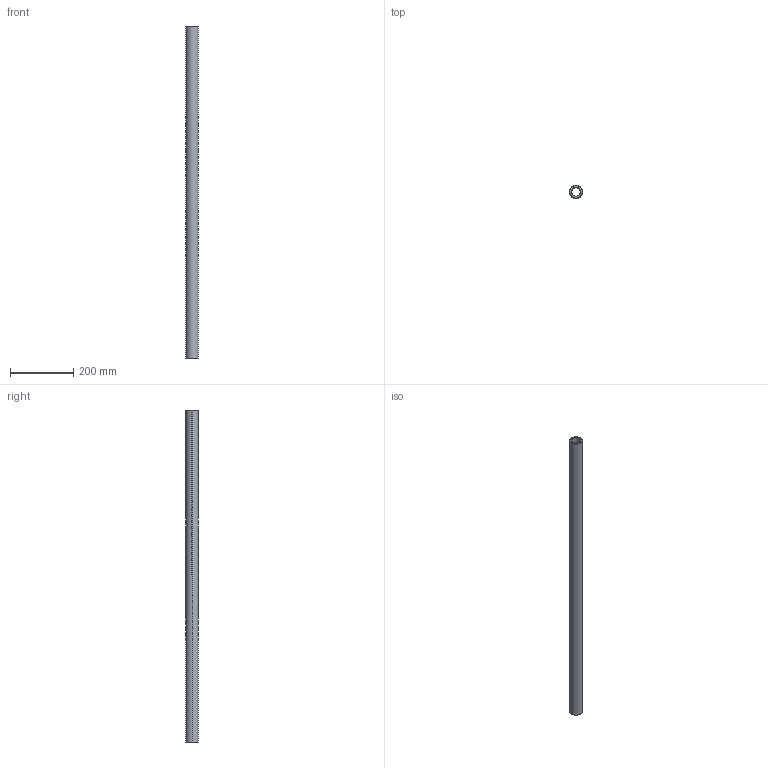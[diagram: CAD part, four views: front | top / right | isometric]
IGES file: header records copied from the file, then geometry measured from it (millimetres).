
Start section: SolidWorks IGES file using analytic representation for surfaces
Global section: file name: C:\Users\IanO\Desktop\L1771_v2\L1771.40_v2\L1771.40_v2_20230705_IGES\L1771.40-1050.igs; native system: SolidWorks 2019; preprocessor: SolidWorks 2019; author: IanO; date: 230705.160344; units: millimetre
Bounding box: 40 x 40 x 1050 mm (x, y, z)
Surface area: 225591.5 mm2 (no closed solid volume)
Topology: 0 solids, 0 shells, 6 faces, 272 edges, 272 vertices
Faces by surface type: revolution 4, bspline 2
